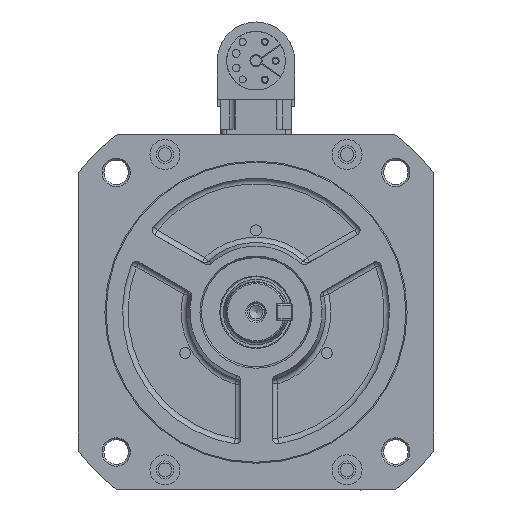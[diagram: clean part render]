
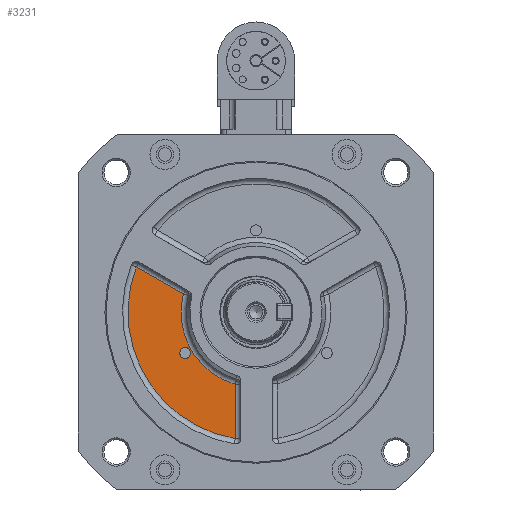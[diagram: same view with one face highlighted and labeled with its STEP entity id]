
A CAD part, left-side view. The second image highlights one B-rep face of the part: STEP entity #3231.
In plain terms, the highlighted planar face has unit normal (-1, 0, 0) as drawn and (0, -1, 0) by its records, which use the part's own axes.
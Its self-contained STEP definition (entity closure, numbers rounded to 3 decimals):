
#3231 = ADVANCED_FACE( '', ( #7081, #7082 ), #7083, .T. );
#7081 = FACE_OUTER_BOUND( '', #11666, .T. );
#7082 = FACE_BOUND( '', #11667, .T. );
#7083 = PLANE( '', #11668 );
#11666 = EDGE_LOOP( '', ( #20462, #20463, #20464, #20465 ) );
#11667 = EDGE_LOOP( '', ( #20466 ) );
#11668 = AXIS2_PLACEMENT_3D( '', #20467, #20468, #20469 );
#20462 = ORIENTED_EDGE( '', *, *, #28282, .T. );
#20463 = ORIENTED_EDGE( '', *, *, #29256, .T. );
#20464 = ORIENTED_EDGE( '', *, *, #29451, .T. );
#20465 = ORIENTED_EDGE( '', *, *, #28314, .T. );
#20466 = ORIENTED_EDGE( '', *, *, #29347, .T. );
#20467 = CARTESIAN_POINT( '', ( 0.069, -28., 0.04 ) );
#20468 = DIRECTION( '', ( 0., -1., 0. ) );
#20469 = DIRECTION( '', ( 0., 0., -1. ) );
#28282 = EDGE_CURVE( '', #34522, #34527, #34529, .T. );
#28314 = EDGE_CURVE( '', #30953, #34522, #34577, .T. );
#29256 = EDGE_CURVE( '', #34527, #35891, #35893, .T. );
#29347 = EDGE_CURVE( '', #36009, #36009, #36010, .T. );
#29451 = EDGE_CURVE( '', #35891, #30953, #36150, .T. );
#30953 = VERTEX_POINT( '', #37916 );
#34522 = VERTEX_POINT( '', #42758 );
#34527 = VERTEX_POINT( '', #42764 );
#34529 = LINE( '', #42766, #42767 );
#34577 = CIRCLE( '', #42829, 27.5 );
#35891 = VERTEX_POINT( '', #44598 );
#35893 = CIRCLE( '', #44600, 47. );
#36009 = VERTEX_POINT( '', #44794 );
#36010 = CIRCLE( '', #44795, 2. );
#36150 = LINE( '', #44971, #44972 );
#37916 = CARTESIAN_POINT( '', ( -7.596, -28., -26.43 ) );
#42758 = CARTESIAN_POINT( '', ( -26.687, -28., 6.637 ) );
#42764 = CARTESIAN_POINT( '', ( -43.922, -28., 16.587 ) );
#42766 = CARTESIAN_POINT( '', ( -3.763, -28., -6.599 ) );
#42767 = VECTOR( '', #50407, 1000. );
#42829 = AXIS2_PLACEMENT_3D( '', #50449, #50450, #50451 );
#44598 = CARTESIAN_POINT( '', ( -7.596, -28., -46.331 ) );
#44600 = AXIS2_PLACEMENT_3D( '', #51816, #51817, #51818 );
#44794 = CARTESIAN_POINT( '', ( -24.249, -28., -14. ) );
#44795 = AXIS2_PLACEMENT_3D( '', #51927, #51928, #51929 );
#44971 = CARTESIAN_POINT( '', ( -7.596, -28., 0.04 ) );
#44972 = VECTOR( '', #52069, 1000. );
#50407 = DIRECTION( '', ( -0.866, 0., 0.5 ) );
#50449 = CARTESIAN_POINT( '', ( 0., -28., 0. ) );
#50450 = DIRECTION( '', ( 0., 1., 0. ) );
#50451 = DIRECTION( '', ( 0., 0., -1. ) );
#51816 = CARTESIAN_POINT( '', ( 0.069, -28., 0.04 ) );
#51817 = DIRECTION( '', ( 0., -1., 0. ) );
#51818 = DIRECTION( '', ( 0., 0., -1. ) );
#51927 = CARTESIAN_POINT( '', ( -25.981, -28., -15. ) );
#51928 = DIRECTION( '', ( 0., 1., 0. ) );
#51929 = DIRECTION( '', ( 0.866, 0., 0.5 ) );
#52069 = DIRECTION( '', ( 0., 0., 1. ) );
